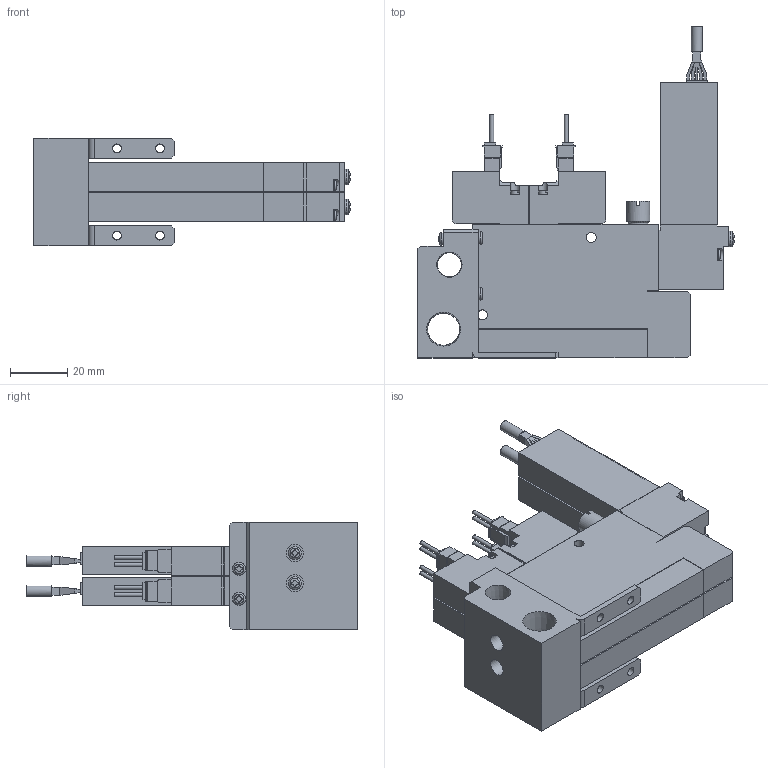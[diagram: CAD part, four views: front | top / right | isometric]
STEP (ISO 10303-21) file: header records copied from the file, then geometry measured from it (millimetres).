
FILE_DESCRIPTION(('STEP AP203'),'1');
FILE_NAME('V9C5SC202_3D.stp','2024-09-04T09:30:04',(' '),(' '),'Spatial InterOp 3D',' ',' ');
FILE_SCHEMA(('CONFIG_CONTROL_DESIGN'));
Length unit declared in the file: millimetre
Products named in the file (5): BSC1M※※V9C5SC202; Solenoid valve S; Pressure Sensor V9; Unit-C; BaseMC20R
Assembly tree (7 placements, depth 2):
  BSC1M※※V9C5SC202
    Solenoid valve S  x2
    Pressure Sensor V9  x2
    Unit-C  x2
    BaseMC20R
Bounding box: 110.35 x 115.8 x 37.5 mm (x, y, z)
Volume: 139851.6 mm3; surface area: 49276.8 mm2
Topology: 7 solids, 7 shells, 921 faces, 2487 edges, 1638 vertices
Faces by surface type: plane 699, cylinder 176, cone 18, sphere 14, torus 14
Full cylindrical faces by diameter (mm): 1.4 x8, 2.5 x4, 3 x12, 3.5 x16, 3.8 x2, 4 x2, 4.134 x4, 4.5 x8, 5.5 x4, 6 x2, 7 x4, 8 x2, 8.422 x1, 11.233 x1
Entity records: 17077 total; most frequent: CARTESIAN_POINT 3575, DIRECTION 2677, ORIENTED_EDGE 2670, EDGE_CURVE 1335, LINE 989, VECTOR 989, VERTEX_POINT 924, AXIS2_PLACEMENT_3D 844
